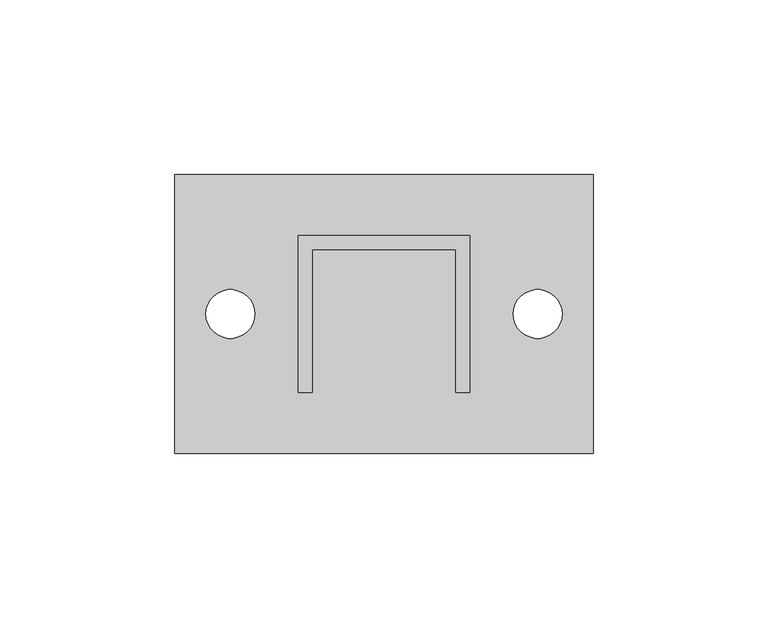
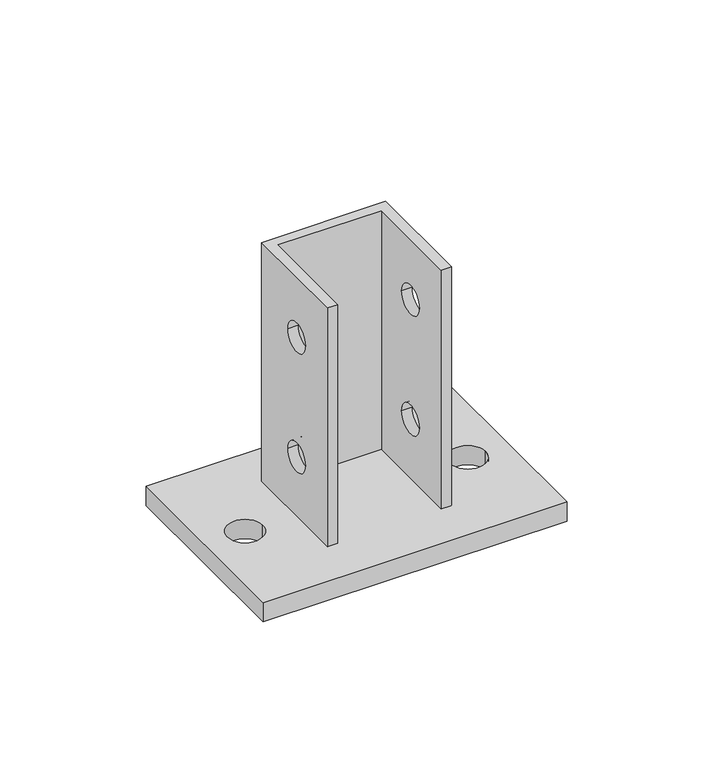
"""IFC4 building model written with IfcOpenShell, lengths in millimetres: proxy geometry, K41_Tape head-Basorfix : Basorfix K41 GC70."""

import ifcopenshell
import ifcopenshell.guid

model = None  # the IFC model being written
_history = None  # IfcOwnerHistory: only IFC2X3 demands one
_inside = {}  # id of a spatial element -> (the spatial element, [elements in it])
_under = {}  # id of a project, library or spatial element -> (it, [spatial elements below it])
_declared = {}  # id of a project -> (the project, [libraries it declares])
_typed = {}  # id of a type object -> (the type object, [elements of that type])
_made_of = {}  # id of a material, layer set ... -> (it, [elements and type objects made of it])


def new_model(schema):
    """Start an empty IFC model of exactly this schema.

    Asked for "IFC4X3", IfcOpenShell would pick the latest addendum, in which some entities
    have other attributes; the version numbers below select the first issue.
    IFC2X3 requires an IfcOwnerHistory on every rooted entity: one is made here for all.
    """
    global model, _history
    if schema == "IFC4X3":
        model = ifcopenshell.file(schema_version=(4, 3, 0, 0))
    else:
        model = ifcopenshell.file(schema=schema)
    _inside.clear()
    _under.clear()
    _declared.clear()
    _typed.clear()
    _made_of.clear()
    _history = None
    if model.schema == "IFC2X3":
        org = make("IfcOrganization", Name="unknown")
        user = make(
            "IfcPersonAndOrganization",
            ThePerson=make("IfcPerson", FamilyName="unknown"),
            TheOrganization=org,
        )
        app = make(
            "IfcApplication",
            ApplicationDeveloper=org,
            Version="unknown",
            ApplicationFullName="unknown",
            ApplicationIdentifier="unknown",
        )
        _history = make(
            "IfcOwnerHistory",
            OwningUser=user,
            OwningApplication=app,
            ChangeAction="ADDED",
            CreationDate=0,
        )
    return model


def make(cls, **values):
    """One entity of the class cls with the attributes given. An attribute that is None is left unset."""
    return model.create_entity(
        cls, **{name: value for name, value in values.items() if value is not None}
    )


def rooted(cls, **values):
    """An entity with a GlobalId (a new one), such as an element, a storey or a relation."""
    return make(cls, GlobalId=ifcopenshell.guid.new(), OwnerHistory=_history, **values)


def si_unit(unit_type, name, prefix=None):
    """IfcSIUnit, for example si_unit("LENGTHUNIT", "METRE", prefix="MILLI")."""
    return make("IfcSIUnit", UnitType=unit_type, Prefix=prefix, Name=name)


def assignment(units):
    """IfcUnitAssignment: the units of a project."""
    return None if units is None else make("IfcUnitAssignment", Units=units)


def point(xyz):
    """IfcCartesianPoint."""
    return None if xyz is None else make("IfcCartesianPoint", Coordinates=xyz)


def direction(xyz):
    """IfcDirection."""
    return None if xyz is None else make("IfcDirection", DirectionRatios=xyz)


def frame(location, z_axis=None, x_axis=None):
    """IfcAxis2Placement3D, a coordinate frame: its origin and axes. An axis left out is left unset."""
    return make(
        "IfcAxis2Placement3D",
        Location=point(location),
        Axis=direction(z_axis),
        RefDirection=direction(x_axis),
    )


def frame_2d(location, x_axis=None):
    """IfcAxis2Placement2D, a coordinate frame in the plane: its origin and x axis."""
    return make(
        "IfcAxis2Placement2D", Location=point(location), RefDirection=direction(x_axis)
    )


def origin():
    """The frame at (0, 0, 0) with its axes left unset."""
    return frame((0.0, 0.0, 0.0))


def origin_with_axes():
    """The frame at (0, 0, 0) with the z axis (0, 0, 1) and the x axis (1, 0, 0) written out."""
    return frame((0.0, 0.0, 0.0), z_axis=(0.0, 0.0, 1.0), x_axis=(1.0, 0.0, 0.0))


def place(relative_to, where):
    """IfcLocalPlacement: puts the frame where relative to a parent placement (None: the world)."""
    return make(
        "IfcLocalPlacement", PlacementRelTo=relative_to, RelativePlacement=where
    )


def context(
    kind, dimensions, precision=None, world=None, true_north=None, identifier=None
):
    """IfcGeometricRepresentationContext, for example the 3D "Model" context."""
    return make(
        "IfcGeometricRepresentationContext",
        ContextIdentifier=identifier,
        ContextType=kind,
        CoordinateSpaceDimension=dimensions,
        Precision=precision,
        WorldCoordinateSystem=world,
        TrueNorth=true_north,
    )


def project(units=None, contexts=None):
    """IfcProject with its units and contexts."""
    return rooted(
        "IfcProject",
        Name="project",
        RepresentationContexts=contexts,
        UnitsInContext=assignment(units),
    )


def spatial(cls, under=None, at=None, **own):
    """A site, building, storey or space (cls), placed at a placement, below another one or the project."""
    s = rooted(cls, ObjectPlacement=at, **own)
    if under is not None:
        _under.setdefault(under.id(), (under, []))[1].append(s)
    return s


def polyline(points):
    """IfcPolyline through the points."""
    return make("IfcPolyline", Points=[point(p) for p in points])


def circle_curve(where, radius):
    """IfcCircle in the frame where."""
    return make("IfcCircle", Position=where, Radius=radius)


def trimmed(basis, trim1, trim2, sense, master):
    """IfcTrimmedCurve: the piece of a basis curve between two trims."""
    return make(
        "IfcTrimmedCurve",
        BasisCurve=basis,
        Trim1=trim1,
        Trim2=trim2,
        SenseAgreement=sense,
        MasterRepresentation=master,
    )


def segment(curve, same_sense, transition):
    """IfcCompositeCurveSegment."""
    return make(
        "IfcCompositeCurveSegment",
        Transition=transition,
        SameSense=same_sense,
        ParentCurve=curve,
    )


def composite_curve(segments, self_intersect=None):
    """IfcCompositeCurve: segments joined end to end."""
    return make("IfcCompositeCurve", Segments=segments, SelfIntersect=self_intersect)


def outline(outer, holes=None, kind="AREA"):
    """IfcArbitraryClosedProfileDef: a profile drawn as a closed curve; with holes, ...WithVoids."""
    if holes is None:
        return make("IfcArbitraryClosedProfileDef", ProfileType=kind, OuterCurve=outer)
    return make(
        "IfcArbitraryProfileDefWithVoids",
        ProfileType=kind,
        OuterCurve=outer,
        InnerCurves=holes,
    )


def extrude(swept, where, along, depth):
    """IfcExtrudedAreaSolid: the profile swept, set in the frame where, extruded along a direction by depth."""
    return make(
        "IfcExtrudedAreaSolid",
        SweptArea=swept,
        Position=where,
        ExtrudedDirection=direction(along),
        Depth=depth,
    )


def shape(context_of_items, identifier, shape_type, items):
    """IfcShapeRepresentation: the items that make up one representation, for example the "Body"."""
    return make(
        "IfcShapeRepresentation",
        ContextOfItems=context_of_items,
        RepresentationIdentifier=identifier,
        RepresentationType=shape_type,
        Items=items,
    )


def source(mapping_origin, context_of_items, identifier, shape_type, items):
    """IfcRepresentationMap: a shape defined once, which mapped items show again and again."""
    return make(
        "IfcRepresentationMap",
        MappingOrigin=mapping_origin,
        MappedRepresentation=shape(context_of_items, identifier, shape_type, items),
    )


def transform(
    local_origin,
    x_axis=None,
    y_axis=None,
    z_axis=None,
    scale=None,
    scale2=None,
    scale3=None,
    uniform=True,
):
    """IfcCartesianTransformationOperator3D, or its non-uniform kind. x_axis, y_axis, z_axis: its Axis1, 2, 3."""
    if uniform:
        return make(
            "IfcCartesianTransformationOperator3D",
            Axis1=direction(x_axis),
            Axis2=direction(y_axis),
            LocalOrigin=point(local_origin),
            Scale=scale,
            Axis3=direction(z_axis),
        )
    return make(
        "IfcCartesianTransformationOperator3DnonUniform",
        Axis1=direction(x_axis),
        Axis2=direction(y_axis),
        LocalOrigin=point(local_origin),
        Scale=scale,
        Axis3=direction(z_axis),
        Scale2=scale2,
        Scale3=scale3,
    )


def mapped(mapping_source, mapping_target):
    """IfcMappedItem: shows the shape of a source again, moved by a transform."""
    return make(
        "IfcMappedItem", MappingSource=mapping_source, MappingTarget=mapping_target
    )


def made_of(thing, what):
    """Note that an element or type object is made of a material, layer set ...; save() writes the relation."""
    if what is not None:
        _made_of.setdefault(what.id(), (what, []))[1].append(thing)
    return thing


def element(
    cls,
    number,
    at=None,
    inside=None,
    cuts=None,
    type_object=None,
    material=None,
    context=None,
    identifier="Body",
    shape_type=None,
    held_by="IfcProductDefinitionShape",
    body=None,
    shapes=None,
    **own,
):
    """One element of the class cls, such as IfcWall. Its Tag is "e" and its number.

    at: its placement. inside: the storey or other place that contains it. cuts: it is an
    opening in that element (IfcRelVoidsElement). A single representation is given by context,
    identifier, shape_type and body (its items); several are given by shapes. held_by: the class
    of the entity that holds the representations. save() writes the other relations.
    """
    e = rooted(cls, Tag="e%d" % number, ObjectPlacement=at, **own)
    if body is not None:
        shapes = [shape(context, identifier, shape_type, body)]
    if shapes is not None:
        e.Representation = make(held_by, Representations=shapes)
    if inside is not None:
        _inside.setdefault(inside.id(), (inside, []))[1].append(e)
    if cuts is not None:
        rooted(
            "IfcRelVoidsElement", RelatingBuildingElement=cuts, RelatedOpeningElement=e
        )
    if type_object is not None:
        _typed.setdefault(type_object.id(), (type_object, []))[1].append(e)
    return made_of(e, material)


def aggregate(whole, parts):
    """IfcRelAggregates: a whole, such as a stair, and the parts it consists of."""
    return rooted("IfcRelAggregates", RelatingObject=whole, RelatedObjects=parts)


def save(model, path):
    """Write the relations noted so far, then the file.

    IfcRelAggregates (storeys below a building ...), IfcRelContainedInSpatialStructure (elements
    in a storey), IfcRelDefinesByType, IfcRelAssociatesMaterial and IfcRelDeclares: one each for
    every whole, place, type object, material and project.
    """
    for whole, parts in _under.values():
        aggregate(whole, parts)
    for where, things in _inside.values():
        rooted(
            "IfcRelContainedInSpatialStructure",
            RelatedElements=things,
            RelatingStructure=where,
        )
    for kind, things in _typed.values():
        rooted("IfcRelDefinesByType", RelatedObjects=things, RelatingType=kind)
    for what, things in _made_of.values():
        rooted("IfcRelAssociatesMaterial", RelatedObjects=things, RelatingMaterial=what)
    for by, libraries in _declared.values():
        rooted("IfcRelDeclares", RelatingContext=by, RelatedDefinitions=libraries)
    model.write(path)


def plane_surface(at):
    """IfcPlane: the flat surface through the origin of the frame at, square to its z axis."""
    return make("IfcPlane", Position=at)


def revolved_surface(curve, axis_point, axis_direction):
    """IfcSurfaceOfRevolution: the curve turned about the line through axis_point along axis_direction."""
    return make(
        "IfcSurfaceOfRevolution",
        SweptCurve=make("IfcArbitraryOpenProfileDef", ProfileType="CURVE", Curve=curve),
        AxisPosition=make("IfcAxis1Placement", Location=point(axis_point), Axis=direction(axis_direction)),
    )


def advanced_brep(points, edges, surfaces, faces):
    """IfcAdvancedBrep: a solid bounded by faces that lie on surfaces and meet in shared edges.

    An edge is (start, end): straight between two places in points (the first is 0);
    or (start, end, curve); or (start, end, curve, False) where it runs against its curve.
    A face is (place in surfaces, loops), or (place, loops, False) where it looks against
    its surface's normal. A loop lists edges by number (the first is 1), with a minus sign
    where the edge is run from its end to its start. The first loop is the outer one.
    """
    corners = [point(p) for p in points]
    vertices = [make("IfcVertexPoint", VertexGeometry=c) for c in corners]
    made = []
    for start, end, *more in edges:
        made.append(
            make(
                "IfcEdgeCurve",
                EdgeStart=vertices[start],
                EdgeEnd=vertices[end],
                EdgeGeometry=more[0] if more else make("IfcPolyline", Points=[corners[start], corners[end]]),
                SameSense=more[1] if len(more) > 1 else True,
            )
        )
    hull = []
    for where, loops, *sense in faces:
        bounds = []
        for j, loop in enumerate(loops):
            ring = [make("IfcOrientedEdge", EdgeElement=made[abs(k) - 1], Orientation=k > 0) for k in loop]
            bounds.append(
                make(
                    "IfcFaceOuterBound" if j == 0 else "IfcFaceBound",
                    Bound=make("IfcEdgeLoop", EdgeList=ring),
                    Orientation=True,
                )
            )
        hull.append(make("IfcAdvancedFace", Bounds=bounds, FaceSurface=surfaces[where], SameSense=sense[0] if sense else True))
    return make("IfcAdvancedBrep", Outer=make("IfcClosedShell", CfsFaces=hull))


def generic_models_73edb59f(model_context):
    return source(origin(), model_context, "Body", "SolidModel", [
        extrude(outline(polyline([(60.0, 40.0), (60.0, -40.0), (-60.0, -40.0), (-60.0, 40.0), (60.0, 40.0)]), holes=[composite_curve([segment(trimmed(circle_curve(frame_2d((-44.0, 0.0)), 7.0), [point((-51.0, 0.0))], [point((-37.0, 0.0))], True, "CARTESIAN"), True, "CONTINUOUS"), segment(trimmed(circle_curve(frame_2d((-44.0, 0.0)), 7.0), [point((-37.0, 0.0))], [point((-51.0, 0.0))], True, "CARTESIAN"), True, "CONTINUOUS")], self_intersect=False), composite_curve([segment(trimmed(circle_curve(frame_2d((44.0, 0.0)), 7.0), [point((37.0, 0.0))], [point((51.0, 0.0))], True, "CARTESIAN"), True, "CONTINUOUS"), segment(trimmed(circle_curve(frame_2d((44.0, 0.0)), 7.0), [point((51.0, 0.0))], [point((37.0, 0.0))], True, "CARTESIAN"), True, "CONTINUOUS")], self_intersect=False)]), origin_with_axes(), (0.0, 0.0, 1.0), 8.0),
        advanced_brep(
        [(-20.5, -22.5, 108.0), (-20.5, 18.5, 108.0), (20.5, 18.5, 108.0), (20.5, -22.5, 108.0), (24.5, -22.5, 108.0), (24.5, 22.5, 108.0), (-24.5, 22.5, 108.0), (-24.5, -22.5, 108.0), (-20.5, -22.5, 8.0), (-24.5, -22.5, 8.0), (-24.5, 22.5, 8.0), (24.5, 22.5, 8.0), (24.5, -22.5, 8.0), (20.5, -22.5, 8.0), (20.5, 18.5, 8.0), (-20.5, 18.5, 8.0), (-20.5, 4.5, 83.0), (-20.5, -7.5, 83.0), (-20.5, 4.5, 33.0), (-20.5, -7.5, 33.0), (20.5, -7.5, 83.0), (20.5, 4.5, 83.0), (20.5, -7.5, 33.0), (20.5, 4.5, 33.0), (24.5, 4.5, 83.0), (24.5, -7.5, 83.0), (24.5, 4.5, 33.0), (24.5, -7.5, 33.0), (-24.5, -7.5, 83.0), (-24.5, 4.5, 83.0), (-24.5, -7.5, 33.0), (-24.5, 4.5, 33.0)],
        [
            (0, 1),
            (1, 2),
            (2, 3),
            (3, 4),
            (4, 5),
            (5, 6),
            (6, 7),
            (7, 0),
            (8, 9),
            (9, 10),
            (10, 11),
            (11, 12),
            (12, 13),
            (13, 14),
            (14, 15),
            (15, 8),
            (0, 8),
            (15, 1),
            (16, 17, circle_curve(frame((-20.5, -1.5, 83.0), z_axis=(-1.0, 0.0, 0.0), x_axis=(0.0, 1.0, 0.0)), 6.0)),
            (17, 16, circle_curve(frame((-20.5, -1.5, 83.0), z_axis=(-1.0, 0.0, 0.0), x_axis=(0.0, 1.0, 0.0)), 6.0)),
            (18, 19, circle_curve(frame((-20.5, -1.5, 33.0), z_axis=(-1.0, 0.0, 0.0), x_axis=(0.0, 1.0, 0.0)), 6.0)),
            (19, 18, circle_curve(frame((-20.5, -1.5, 33.0), z_axis=(-1.0, 0.0, 0.0), x_axis=(0.0, 1.0, 0.0)), 6.0)),
            (14, 2),
            (13, 3),
            (20, 21, circle_curve(frame((20.5, -1.5, 83.0), z_axis=(1.0, 0.0, 0.0), x_axis=(0.0, 1.0, 0.0)), 6.0)),
            (21, 20, circle_curve(frame((20.5, -1.5, 83.0), z_axis=(1.0, 0.0, 0.0), x_axis=(0.0, 1.0, 0.0)), 6.0)),
            (22, 23, circle_curve(frame((20.5, -1.5, 33.0), z_axis=(1.0, 0.0, 0.0), x_axis=(0.0, 1.0, 0.0)), 6.0)),
            (23, 22, circle_curve(frame((20.5, -1.5, 33.0), z_axis=(1.0, 0.0, 0.0), x_axis=(0.0, 1.0, 0.0)), 6.0)),
            (12, 4),
            (11, 5),
            (24, 25, circle_curve(frame((24.5, -1.5, 83.0), z_axis=(-1.0, 0.0, 0.0), x_axis=(0.0, 1.0, 0.0)), 6.0)),
            (25, 24, circle_curve(frame((24.5, -1.5, 83.0), z_axis=(-1.0, 0.0, 0.0), x_axis=(0.0, 1.0, 0.0)), 6.0)),
            (26, 27, circle_curve(frame((24.5, -1.5, 33.0), z_axis=(-1.0, 0.0, 0.0), x_axis=(0.0, 1.0, 0.0)), 6.0)),
            (27, 26, circle_curve(frame((24.5, -1.5, 33.0), z_axis=(-1.0, 0.0, 0.0), x_axis=(0.0, 1.0, 0.0)), 6.0)),
            (10, 6),
            (9, 7),
            (28, 29, circle_curve(frame((-24.5, -1.5, 83.0), z_axis=(1.0, 0.0, 0.0), x_axis=(0.0, 1.0, 0.0)), 6.0)),
            (29, 28, circle_curve(frame((-24.5, -1.5, 83.0), z_axis=(1.0, 0.0, 0.0), x_axis=(0.0, 1.0, 0.0)), 6.0)),
            (30, 31, circle_curve(frame((-24.5, -1.5, 33.0), z_axis=(1.0, 0.0, 0.0), x_axis=(0.0, 1.0, 0.0)), 6.0)),
            (31, 30, circle_curve(frame((-24.5, -1.5, 33.0), z_axis=(1.0, 0.0, 0.0), x_axis=(0.0, 1.0, 0.0)), 6.0)),
            (20, 25),
            (24, 21),
            (28, 17),
            (16, 29),
            (22, 27),
            (26, 23),
            (30, 19),
            (18, 31),
        ],
        [
            plane_surface(frame((-20.5, -22.5, 108.0), z_axis=(0.0, 0.0, 1.0), x_axis=(0.0, 1.0, 0.0))),
            plane_surface(frame((-20.5, -22.5, 8.0), z_axis=(0.0, 0.0, -1.0), x_axis=(0.0, -1.0, 0.0))),
            plane_surface(frame((-20.5, -22.5, 108.0), z_axis=(1.0, 0.0, 0.0), x_axis=(0.0, 0.0, -1.0))),
            plane_surface(frame((-20.5, 18.5, 108.0), z_axis=(0.0, -1.0, 0.0), x_axis=(0.0, 0.0, -1.0))),
            plane_surface(frame((20.5, 18.5, 108.0), z_axis=(-1.0, 0.0, 0.0), x_axis=(0.0, 0.0, -1.0))),
            plane_surface(frame((20.5, -22.5, 108.0), z_axis=(0.0, -1.0, 0.0), x_axis=(0.0, 0.0, -1.0))),
            plane_surface(frame((24.5, -22.5, 108.0), z_axis=(1.0, 0.0, 0.0), x_axis=(0.0, 0.0, -1.0))),
            plane_surface(frame((24.5, 22.5, 108.0), z_axis=(0.0, 1.0, 0.0), x_axis=(0.0, 0.0, -1.0))),
            plane_surface(frame((-24.5, 22.5, 108.0), z_axis=(-1.0, 0.0, 0.0), x_axis=(0.0, 0.0, -1.0))),
            plane_surface(frame((-24.5, -22.5, 108.0), z_axis=(0.0, -1.0, 0.0), x_axis=(0.0, 0.0, -1.0))),
            revolved_surface(polyline([(24.5, 4.5, 83.0), (20.5, 4.5, 83.0)]), (-25.5, -1.5, 83.0), (1.0, 0.0, 0.0)),
            revolved_surface(polyline([(-20.5, 4.5, 83.0), (-24.5, 4.5, 83.0)]), (-25.5, -1.5, 83.0), (1.0, 0.0, 0.0)),
            revolved_surface(polyline([(24.5, 4.5, 33.0), (20.5, 4.5, 33.0)]), (0.0, -1.5, 33.0), (1.0, 0.0, 0.0)),
            revolved_surface(polyline([(-20.5, 4.5, 33.0), (-24.5, 4.5, 33.0)]), (0.0, -1.5, 33.0), (1.0, 0.0, 0.0)),
        ],
        [
            (0, [[1, 2, 3, 4, 5, 6, 7, 8]]),
            (1, [[9, 10, 11, 12, 13, 14, 15, 16]]),
            (2, [[-1, 17, -16, 18], [19, 20], [21, 22]]),
            (3, [[-2, -18, -15, 23]]),
            (4, [[-3, -23, -14, 24], [25, 26], [27, 28]]),
            (5, [[-4, -24, -13, 29]]),
            (6, [[-5, -29, -12, 30], [31, 32], [33, 34]]),
            (7, [[-6, -30, -11, 35]]),
            (8, [[-7, -35, -10, 36], [37, 38], [39, 40]]),
            (9, [[-8, -36, -9, -17]]),
            (10, [[41, -31, 42, -25]]),
            (11, [[43, -19, 44, -37]]),
            (10, [[-41, -26, -42, -32]]),
            (11, [[-43, -38, -44, -20]]),
            (12, [[45, -33, 46, -27]]),
            (13, [[47, -21, 48, -39]]),
            (12, [[-45, -28, -46, -34]]),
            (13, [[-47, -40, -48, -22]]),
        ],
    ),
    ])


if __name__ == "__main__":
    model = new_model("IFC4")
    model_context = context("Model", 3, world=origin())
    ifc_project = project(units=[si_unit("LENGTHUNIT", "METRE", prefix="MILLI")], contexts=[model_context])
    site = spatial("IfcSite", under=ifc_project)
    building = spatial("IfcBuilding", under=site)
    placement = place(None, origin())
    generic_models_shape = generic_models_73edb59f(model_context)
    element("IfcBuildingElementProxy", 1, Name="K41_Tape head-Basorfix : Basorfix K41 GC70", ObjectType="K41_Tape head-Basorfix : Basorfix K41 GC70", at=placement, inside=building, context=model_context, shape_type="MappedRepresentation", body=[
        mapped(generic_models_shape, transform((0.0, 0.0, 0.0), x_axis=(1.0, 0.0, 0.0), y_axis=(0.0, 1.0, 0.0), z_axis=(0.0, 0.0, 1.0))),
    ])
    save(model, "model.ifc")
